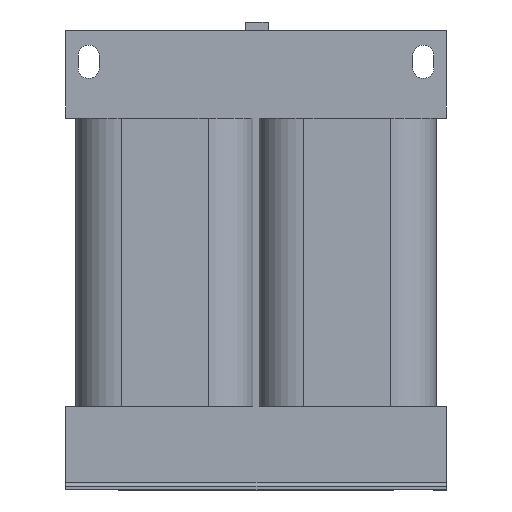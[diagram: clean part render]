
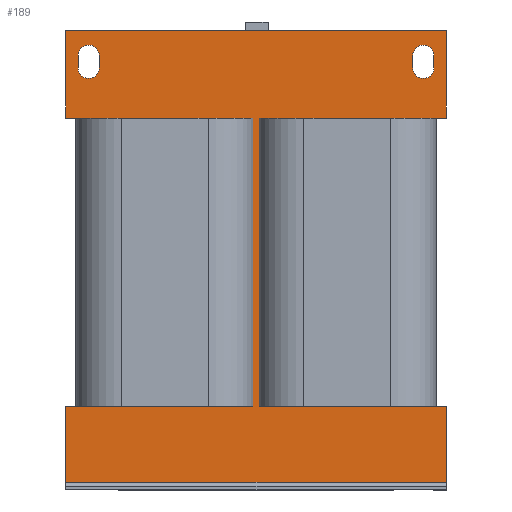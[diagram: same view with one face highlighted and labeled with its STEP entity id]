
A CAD part, left-side view. The second image highlights one B-rep face of the part: STEP entity #189.
In plain terms, the highlighted planar face has unit normal (-1, 0, 0).
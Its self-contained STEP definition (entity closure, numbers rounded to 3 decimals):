
#143=FACE_BOUND('',#553,.T.);
#144=FACE_BOUND('',#554,.T.);
#145=FACE_BOUND('',#555,.T.);
#189=ADVANCED_FACE('',(#143,#144,#145),#321,.T.);
#321=PLANE('',#2647);
#553=EDGE_LOOP('',(#905,#906,#907,#908,#909,#910,#911,#912,#913,#914,#915,
#916,#917,#918,#919,#920));
#554=EDGE_LOOP('',(#921,#922,#923,#924));
#555=EDGE_LOOP('',(#925,#926,#927,#928));
#720=CIRCLE('',#2643,7.);
#721=CIRCLE('',#2644,7.);
#722=CIRCLE('',#2645,7.);
#723=CIRCLE('',#2646,7.);
#905=ORIENTED_EDGE('',*,*,#1821,.F.);
#906=ORIENTED_EDGE('',*,*,#1822,.F.);
#907=ORIENTED_EDGE('',*,*,#1823,.T.);
#908=ORIENTED_EDGE('',*,*,#1804,.F.);
#909=ORIENTED_EDGE('',*,*,#1824,.F.);
#910=ORIENTED_EDGE('',*,*,#1810,.F.);
#911=ORIENTED_EDGE('',*,*,#1737,.F.);
#912=ORIENTED_EDGE('',*,*,#1825,.T.);
#913=ORIENTED_EDGE('',*,*,#1723,.F.);
#914=ORIENTED_EDGE('',*,*,#1826,.F.);
#915=ORIENTED_EDGE('',*,*,#1827,.T.);
#916=ORIENTED_EDGE('',*,*,#1828,.F.);
#917=ORIENTED_EDGE('',*,*,#1829,.T.);
#918=ORIENTED_EDGE('',*,*,#1807,.F.);
#919=ORIENTED_EDGE('',*,*,#1830,.F.);
#920=ORIENTED_EDGE('',*,*,#1831,.F.);
#921=ORIENTED_EDGE('',*,*,#1832,.F.);
#922=ORIENTED_EDGE('',*,*,#1833,.F.);
#923=ORIENTED_EDGE('',*,*,#1834,.F.);
#924=ORIENTED_EDGE('',*,*,#1835,.F.);
#925=ORIENTED_EDGE('',*,*,#1836,.F.);
#926=ORIENTED_EDGE('',*,*,#1837,.F.);
#927=ORIENTED_EDGE('',*,*,#1838,.F.);
#928=ORIENTED_EDGE('',*,*,#1839,.F.);
#1493=VERTEX_POINT('',#3569);
#1494=VERTEX_POINT('',#3571);
#1505=VERTEX_POINT('',#3598);
#1506=VERTEX_POINT('',#3600);
#1562=VERTEX_POINT('',#3726);
#1565=VERTEX_POINT('',#3731);
#1567=VERTEX_POINT('',#3737);
#1568=VERTEX_POINT('',#3739);
#1569=VERTEX_POINT('',#3744);
#1578=VERTEX_POINT('',#3766);
#1579=VERTEX_POINT('',#3767);
#1580=VERTEX_POINT('',#3769);
#1581=VERTEX_POINT('',#3774);
#1582=VERTEX_POINT('',#3776);
#1583=VERTEX_POINT('',#3778);
#1584=VERTEX_POINT('',#3781);
#1585=VERTEX_POINT('',#3784);
#1586=VERTEX_POINT('',#3785);
#1587=VERTEX_POINT('',#3787);
#1588=VERTEX_POINT('',#3789);
#1589=VERTEX_POINT('',#3792);
#1590=VERTEX_POINT('',#3793);
#1591=VERTEX_POINT('',#3795);
#1592=VERTEX_POINT('',#3797);
#1723=EDGE_CURVE('',#1493,#1494,#2060,.T.);
#1737=EDGE_CURVE('',#1505,#1506,#2069,.T.);
#1804=EDGE_CURVE('',#1565,#1562,#2119,.T.);
#1807=EDGE_CURVE('',#1567,#1568,#2121,.T.);
#1810=EDGE_CURVE('',#1506,#1569,#2123,.T.);
#1821=EDGE_CURVE('',#1578,#1579,#2132,.T.);
#1822=EDGE_CURVE('',#1580,#1578,#2133,.T.);
#1823=EDGE_CURVE('',#1580,#1562,#2134,.T.);
#1824=EDGE_CURVE('',#1569,#1565,#2135,.T.);
#1825=EDGE_CURVE('',#1505,#1494,#2136,.T.);
#1826=EDGE_CURVE('',#1581,#1493,#2137,.T.);
#1827=EDGE_CURVE('',#1581,#1582,#2138,.T.);
#1828=EDGE_CURVE('',#1583,#1582,#2139,.T.);
#1829=EDGE_CURVE('',#1583,#1568,#2140,.T.);
#1830=EDGE_CURVE('',#1584,#1567,#2141,.T.);
#1831=EDGE_CURVE('',#1579,#1584,#2142,.T.);
#1832=EDGE_CURVE('',#1585,#1586,#720,.T.);
#1833=EDGE_CURVE('',#1587,#1585,#2143,.T.);
#1834=EDGE_CURVE('',#1588,#1587,#721,.T.);
#1835=EDGE_CURVE('',#1586,#1588,#2144,.T.);
#1836=EDGE_CURVE('',#1589,#1590,#722,.T.);
#1837=EDGE_CURVE('',#1591,#1589,#2145,.T.);
#1838=EDGE_CURVE('',#1592,#1591,#723,.T.);
#1839=EDGE_CURVE('',#1590,#1592,#2146,.T.);
#2060=LINE('',#3570,#2331);
#2069=LINE('',#3599,#2340);
#2119=LINE('',#3732,#2390);
#2121=LINE('',#3738,#2392);
#2123=LINE('',#3743,#2394);
#2132=LINE('',#3765,#2403);
#2133=LINE('',#3768,#2404);
#2134=LINE('',#3770,#2405);
#2135=LINE('',#3771,#2406);
#2136=LINE('',#3772,#2407);
#2137=LINE('',#3773,#2408);
#2138=LINE('',#3775,#2409);
#2139=LINE('',#3777,#2410);
#2140=LINE('',#3779,#2411);
#2141=LINE('',#3780,#2412);
#2142=LINE('',#3782,#2413);
#2143=LINE('',#3786,#2414);
#2144=LINE('',#3790,#2415);
#2145=LINE('',#3794,#2416);
#2146=LINE('',#3798,#2417);
#2331=VECTOR('',#2862,1.);
#2340=VECTOR('',#2887,1.);
#2390=VECTOR('',#2983,1.);
#2392=VECTOR('',#2989,1.);
#2394=VECTOR('',#2995,1.);
#2403=VECTOR('',#3012,1.);
#2404=VECTOR('',#3013,1.);
#2405=VECTOR('',#3014,1.);
#2406=VECTOR('',#3015,1.);
#2407=VECTOR('',#3016,1.);
#2408=VECTOR('',#3017,1.);
#2409=VECTOR('',#3018,1.);
#2410=VECTOR('',#3019,1.);
#2411=VECTOR('',#3020,1.);
#2412=VECTOR('',#3021,1.);
#2413=VECTOR('',#3022,1.);
#2414=VECTOR('',#3025,1.);
#2415=VECTOR('',#3028,1.);
#2416=VECTOR('',#3031,1.);
#2417=VECTOR('',#3034,1.);
#2643=AXIS2_PLACEMENT_3D('',#3783,#3023,#3024);
#2644=AXIS2_PLACEMENT_3D('',#3788,#3026,#3027);
#2645=AXIS2_PLACEMENT_3D('',#3791,#3029,#3030);
#2646=AXIS2_PLACEMENT_3D('',#3796,#3032,#3033);
#2647=AXIS2_PLACEMENT_3D('',#3799,#3035,#3036);
#2862=DIRECTION('',(0.,1.,0.));
#2887=DIRECTION('',(0.,-1.,0.));
#2983=DIRECTION('',(0.,1.,0.));
#2989=DIRECTION('',(0.,1.,0.));
#2995=DIRECTION('',(0.,-1.,0.));
#3012=DIRECTION('',(0.,-1.,0.));
#3013=DIRECTION('',(0.,-1.,0.));
#3014=DIRECTION('',(0.,0.,-1.));
#3015=DIRECTION('',(0.,0.,-1.));
#3016=DIRECTION('',(0.,0.,1.));
#3017=DIRECTION('',(0.,1.,0.));
#3018=DIRECTION('',(0.,0.,1.));
#3019=DIRECTION('',(0.,-1.,0.));
#3020=DIRECTION('',(0.,0.,-1.));
#3021=DIRECTION('',(0.,1.,0.));
#3022=DIRECTION('',(0.,0.,1.));
#3023=DIRECTION('',(-1.,0.,0.));
#3024=DIRECTION('',(0.,0.,1.));
#3025=DIRECTION('',(0.,0.,1.));
#3026=DIRECTION('',(-1.,0.,0.));
#3027=DIRECTION('',(0.,0.,1.));
#3028=DIRECTION('',(0.,0.,-1.));
#3029=DIRECTION('',(-1.,0.,0.));
#3030=DIRECTION('',(0.,0.,1.));
#3031=DIRECTION('',(0.,0.,1.));
#3032=DIRECTION('',(-1.,0.,0.));
#3033=DIRECTION('',(0.,0.,1.));
#3034=DIRECTION('',(0.,0.,-1.));
#3035=DIRECTION('',(-1.,0.,0.));
#3036=DIRECTION('',(0.,0.,1.));
#3569=CARTESIAN_POINT('',(-6.75,-62.992,159.));
#3570=CARTESIAN_POINT('',(-6.75,-59.6,159.));
#3571=CARTESIAN_POINT('',(-6.75,52.992,159.));
#3598=CARTESIAN_POINT('',(-6.75,52.992,-30.5));
#3599=CARTESIAN_POINT('',(-6.75,-59.6,-30.5));
#3600=CARTESIAN_POINT('',(-6.75,-62.992,-30.5));
#3726=CARTESIAN_POINT('',(-6.75,180.,-80.5));
#3731=CARTESIAN_POINT('',(-6.75,-70.,-80.5));
#3732=CARTESIAN_POINT('',(-6.75,-59.6,-80.5));
#3737=CARTESIAN_POINT('',(-6.75,172.992,159.));
#3738=CARTESIAN_POINT('',(-6.75,-59.6,159.));
#3739=CARTESIAN_POINT('',(-6.75,180.,159.));
#3743=CARTESIAN_POINT('',(-6.75,-59.6,-30.5));
#3744=CARTESIAN_POINT('',(-6.75,-70.,-30.5));
#3765=CARTESIAN_POINT('',(-6.75,-59.6,-30.5));
#3766=CARTESIAN_POINT('',(-6.75,172.992,-30.5));
#3767=CARTESIAN_POINT('',(-6.75,57.008,-30.5));
#3768=CARTESIAN_POINT('',(-6.75,-59.6,-30.5));
#3769=CARTESIAN_POINT('',(-6.75,180.,-30.5));
#3770=CARTESIAN_POINT('',(-6.75,180.,200.5));
#3771=CARTESIAN_POINT('',(-6.75,-70.,200.5));
#3772=CARTESIAN_POINT('',(-6.75,52.992,-30.5));
#3773=CARTESIAN_POINT('',(-6.75,-59.6,159.));
#3774=CARTESIAN_POINT('',(-6.75,-70.,159.));
#3775=CARTESIAN_POINT('',(-6.75,-70.,200.5));
#3776=CARTESIAN_POINT('',(-6.75,-70.,216.5));
#3777=CARTESIAN_POINT('',(-6.75,-59.6,216.5));
#3778=CARTESIAN_POINT('',(-6.75,180.,216.5));
#3779=CARTESIAN_POINT('',(-6.75,180.,200.5));
#3780=CARTESIAN_POINT('',(-6.75,-59.6,159.));
#3781=CARTESIAN_POINT('',(-6.75,57.008,159.));
#3782=CARTESIAN_POINT('',(-6.75,57.008,-30.5));
#3783=CARTESIAN_POINT('',(-6.75,-55.,200.));
#3784=CARTESIAN_POINT('',(-6.75,-62.,200.));
#3785=CARTESIAN_POINT('',(-6.75,-48.,200.));
#3786=CARTESIAN_POINT('',(-6.75,-62.,194.));
#3787=CARTESIAN_POINT('',(-6.75,-62.,192.));
#3788=CARTESIAN_POINT('',(-6.75,-55.,192.));
#3789=CARTESIAN_POINT('',(-6.75,-48.,192.));
#3790=CARTESIAN_POINT('',(-6.75,-48.,200.));
#3791=CARTESIAN_POINT('',(-6.75,165.,200.));
#3792=CARTESIAN_POINT('',(-6.75,158.,200.));
#3793=CARTESIAN_POINT('',(-6.75,172.,200.));
#3794=CARTESIAN_POINT('',(-6.75,158.,200.));
#3795=CARTESIAN_POINT('',(-6.75,158.,192.));
#3796=CARTESIAN_POINT('',(-6.75,165.,192.));
#3797=CARTESIAN_POINT('',(-6.75,172.,192.));
#3798=CARTESIAN_POINT('',(-6.75,172.,194.));
#3799=CARTESIAN_POINT('',(-6.75,-59.6,200.5));
